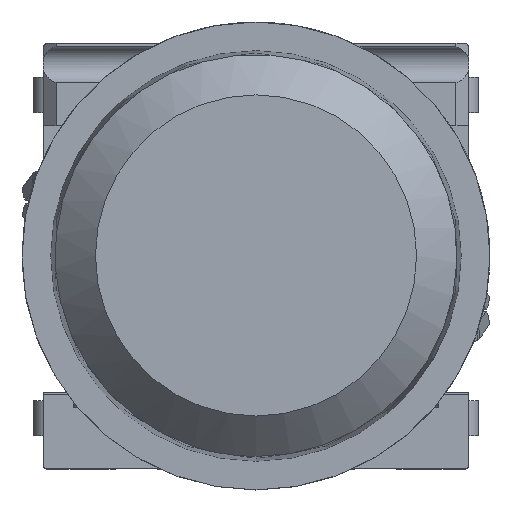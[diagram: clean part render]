
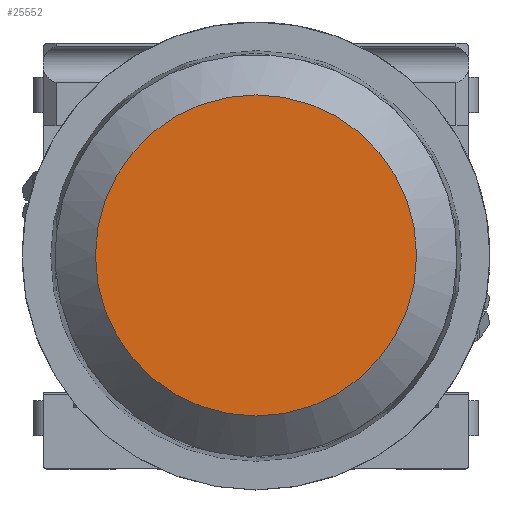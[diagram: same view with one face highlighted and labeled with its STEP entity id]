
A CAD part, top view. The second image highlights one B-rep face of the part: STEP entity #25552.
In plain terms, the highlighted planar face has unit normal (0, 0, 1).
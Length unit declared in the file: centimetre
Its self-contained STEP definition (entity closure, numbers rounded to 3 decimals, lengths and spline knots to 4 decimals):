
#5817=PLANE($,#27005);
#6894=FACE_OUTER_BOUND($,#8243,.T.);
#8243=EDGE_LOOP($,(#17205));
#9637=CIRCLE($,#27003,0.3775);
#10478=VERTEX_POINT($,#37856);
#13085=EDGE_CURVE($,#10478,#10478,#9637,.T.);
#17205=ORIENTED_EDGE($,*,*,#13085,.T.);
#25552=ADVANCED_FACE($,(#6894),#5817,.T.);
#27003=AXIS2_PLACEMENT_3D($,#37857,#29398,#29399);
#27005=AXIS2_PLACEMENT_3D($,#37859,#29402,#29403);
#29398=DIRECTION('center_axis',(0.,0.,
1.));
#29399=DIRECTION('ref_axis',(0.,-1.,0.));
#29402=DIRECTION('center_axis',(0.,0.,
1.));
#29403=DIRECTION('ref_axis',(0.,1.,0.));
#37856=CARTESIAN_POINT('',(0.,-0.3775,1.506));
#37857=CARTESIAN_POINT('Origin',(0.,0.,
1.506));
#37859=CARTESIAN_POINT('Origin',(0.,-0.1887,1.506));
